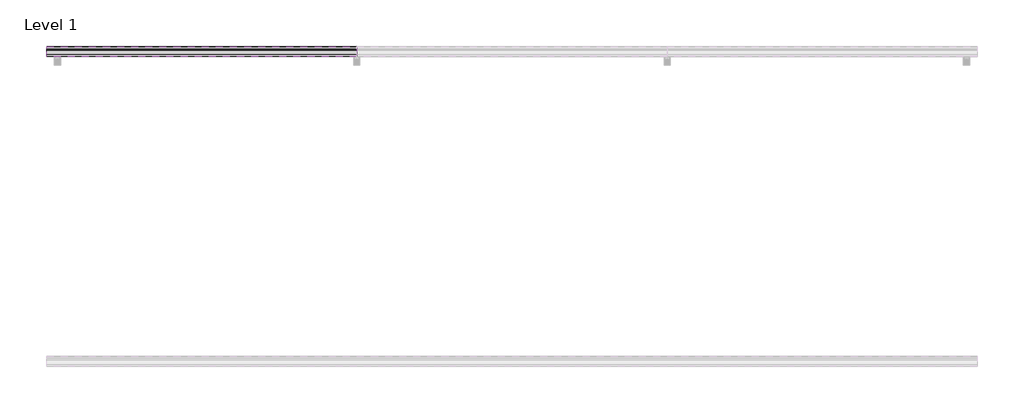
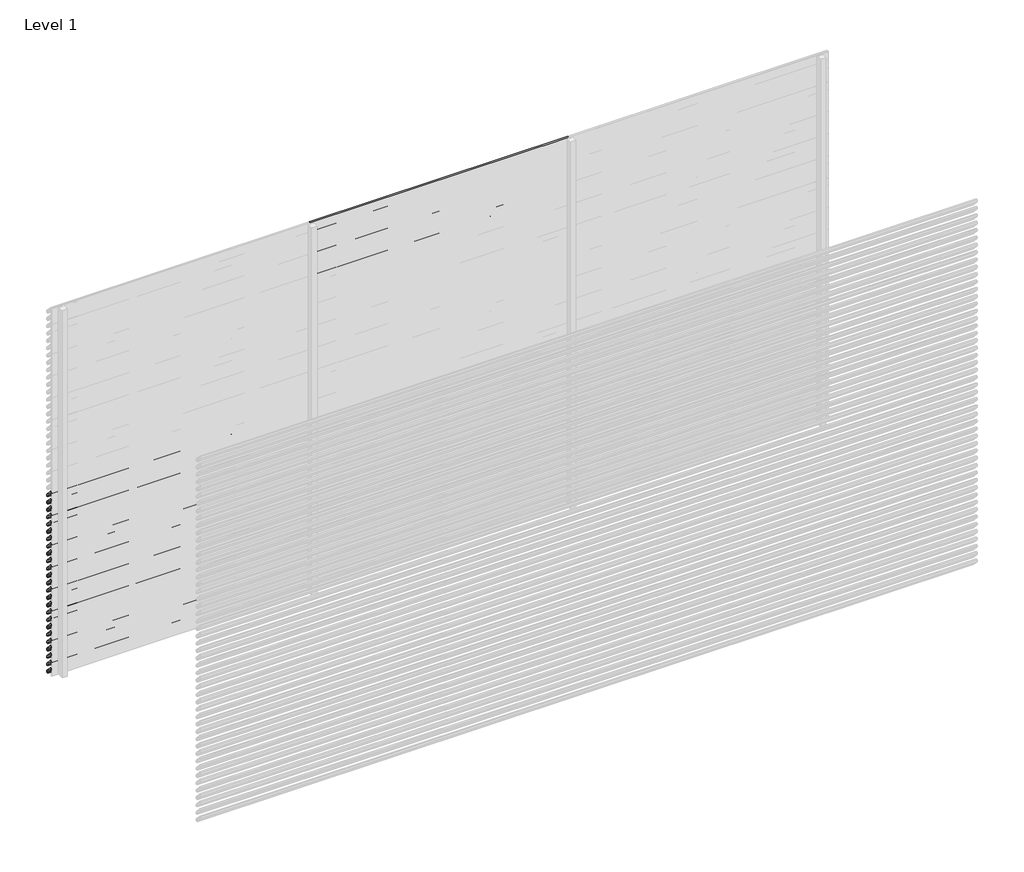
# One storey, part 92 of 153: 33 proxies.
"""IFC4 building model written with IfcOpenShell, lengths in millimetres."""

from ifc_helpers import new_model, si_unit, point, frame, frame_2d, origin, place, context, project, spatial, polyline, circle_curve, trimmed, segment, composite_curve, outline, extrude, element, save

model = new_model("IFC4")

# Units and contexts
model_context = context("Model", 3, world=origin())
ifc_project = project(units=[si_unit("LENGTHUNIT", "METRE", prefix="MILLI")], contexts=[model_context])

# Site, building, storey
site = spatial("IfcSite", under=ifc_project)
building = spatial("IfcBuilding", under=site)
storey = spatial("IfcBuildingStorey", under=building, Name="Level 1", Elevation=0.0)

# Proxies
placement = place(None, origin())
element("IfcBuildingElementProxy", 1, Name="Wall Sweeps", at=placement, inside=storey, context=model_context, shape_type="SweptSolid", body=[
    extrude(outline(composite_curve([segment(polyline([(36485.0540136, 1500.0), (36499.874191, 1498.7034025), (36549.0540136, 1445.0102749), (36549.0540136, 1433.6108187)]), True, "CONTINUOUS"), segment(trimmed(circle_curve(frame_2d((36545.7883652, 1433.897153)), 3.2781774), [point((36549.0540136, 1433.6108187))], [point((36546.4639442, 1430.6893438))], False, "CARTESIAN"), True, "CONTINUOUS"), segment(polyline([(36546.4639442, 1430.6893438), (36534.1895723, 1431.6282758), (36485.0540136, 1485.2730773), (36485.0540136, 1500.0)]), True, "CONTINUOUS")], self_intersect=False), holes=[composite_curve([segment(polyline([(36499.1621773, 1497.2599659), (36486.5540136, 1498.3630372), (36486.5540136, 1485.856213), (36534.8952036, 1433.0786805), (36546.3312542, 1432.2038762)]), True, "CONTINUOUS"), segment(trimmed(circle_curve(frame_2d((36545.7883652, 1433.897153)), 1.7781774), [point((36546.3312542, 1432.2038762))], [point((36547.5540136, 1433.6864389))], True, "CARTESIAN"), True, "CONTINUOUS"), segment(polyline([(36547.5540136, 1433.6864389), (36547.5540136, 1444.4271392), (36499.1621773, 1497.2599659)]), True, "CONTINUOUS")], self_intersect=False)]), frame((44966.6208097, 0.0, 0.0), z_axis=(1.0, 0.0, 0.0), x_axis=(0.0, 1.0, 0.0)), (0.0, 0.0, 1.0), 2000.0000001),
])
element("IfcBuildingElementProxy", 2, Name="Wall Sweeps", at=placement, inside=storey, context=model_context, shape_type="SweptSolid", body=[
    extrude(outline(composite_curve([segment(polyline([(36485.0540136, 1440.0), (36499.874191, 1438.7034025), (36549.0540136, 1385.0102749), (36549.0540136, 1373.6108187)]), True, "CONTINUOUS"), segment(trimmed(circle_curve(frame_2d((36545.7883652, 1373.897153)), 3.2781774), [point((36549.0540136, 1373.6108187))], [point((36546.4639442, 1370.6893438))], False, "CARTESIAN"), True, "CONTINUOUS"), segment(polyline([(36546.4639442, 1370.6893438), (36534.1895723, 1371.6282758), (36485.0540136, 1425.2730773), (36485.0540136, 1440.0)]), True, "CONTINUOUS")], self_intersect=False), holes=[composite_curve([segment(polyline([(36499.1621773, 1437.2599659), (36486.5540136, 1438.3630372), (36486.5540136, 1425.856213), (36534.8952036, 1373.0786805), (36546.3312542, 1372.2038762)]), True, "CONTINUOUS"), segment(trimmed(circle_curve(frame_2d((36545.7883652, 1373.897153)), 1.7781774), [point((36546.3312542, 1372.2038762))], [point((36547.5540136, 1373.6864389))], True, "CARTESIAN"), True, "CONTINUOUS"), segment(polyline([(36547.5540136, 1373.6864389), (36547.5540136, 1384.4271392), (36499.1621773, 1437.2599659)]), True, "CONTINUOUS")], self_intersect=False)]), frame((44966.6208097, 0.0, 0.0), z_axis=(1.0, 0.0, 0.0), x_axis=(0.0, 1.0, 0.0)), (0.0, 0.0, 1.0), 2000.0000001),
])
element("IfcBuildingElementProxy", 3, Name="Wall Sweeps", at=placement, inside=storey, context=model_context, shape_type="SweptSolid", body=[
    extrude(outline(composite_curve([segment(polyline([(36485.0540136, 1380.0), (36499.874191, 1378.7034025), (36549.0540136, 1325.0102749), (36549.0540136, 1313.6108187)]), True, "CONTINUOUS"), segment(trimmed(circle_curve(frame_2d((36545.7883652, 1313.897153)), 3.2781774), [point((36549.0540136, 1313.6108187))], [point((36546.4639442, 1310.6893438))], False, "CARTESIAN"), True, "CONTINUOUS"), segment(polyline([(36546.4639442, 1310.6893438), (36534.1895723, 1311.6282758), (36485.0540136, 1365.2730773), (36485.0540136, 1380.0)]), True, "CONTINUOUS")], self_intersect=False), holes=[composite_curve([segment(polyline([(36499.1621773, 1377.2599659), (36486.5540136, 1378.3630372), (36486.5540136, 1365.856213), (36534.8952036, 1313.0786805), (36546.3312542, 1312.2038762)]), True, "CONTINUOUS"), segment(trimmed(circle_curve(frame_2d((36545.7883652, 1313.897153)), 1.7781774), [point((36546.3312542, 1312.2038762))], [point((36547.5540136, 1313.6864389))], True, "CARTESIAN"), True, "CONTINUOUS"), segment(polyline([(36547.5540136, 1313.6864389), (36547.5540136, 1324.4271392), (36499.1621773, 1377.2599659)]), True, "CONTINUOUS")], self_intersect=False)]), frame((44966.6208097, 0.0, 0.0), z_axis=(1.0, 0.0, 0.0), x_axis=(0.0, 1.0, 0.0)), (0.0, 0.0, 1.0), 2000.0000001),
])
element("IfcBuildingElementProxy", 4, Name="Wall Sweeps", at=placement, inside=storey, context=model_context, shape_type="SweptSolid", body=[
    extrude(outline(composite_curve([segment(polyline([(36485.0540136, 1320.0), (36499.874191, 1318.7034025), (36549.0540136, 1265.0102749), (36549.0540136, 1253.6108187)]), True, "CONTINUOUS"), segment(trimmed(circle_curve(frame_2d((36545.7883652, 1253.897153)), 3.2781774), [point((36549.0540136, 1253.6108187))], [point((36546.4639442, 1250.6893438))], False, "CARTESIAN"), True, "CONTINUOUS"), segment(polyline([(36546.4639442, 1250.6893438), (36534.1895723, 1251.6282758), (36485.0540136, 1305.2730773), (36485.0540136, 1320.0)]), True, "CONTINUOUS")], self_intersect=False), holes=[composite_curve([segment(polyline([(36499.1621773, 1317.2599659), (36486.5540136, 1318.3630372), (36486.5540136, 1305.856213), (36534.8952036, 1253.0786805), (36546.3312542, 1252.2038762)]), True, "CONTINUOUS"), segment(trimmed(circle_curve(frame_2d((36545.7883652, 1253.897153)), 1.7781774), [point((36546.3312542, 1252.2038762))], [point((36547.5540136, 1253.6864389))], True, "CARTESIAN"), True, "CONTINUOUS"), segment(polyline([(36547.5540136, 1253.6864389), (36547.5540136, 1264.4271392), (36499.1621773, 1317.2599659)]), True, "CONTINUOUS")], self_intersect=False)]), frame((44966.6208097, 0.0, 0.0), z_axis=(1.0, 0.0, 0.0), x_axis=(0.0, 1.0, 0.0)), (0.0, 0.0, 1.0), 2000.0000001),
])
element("IfcBuildingElementProxy", 5, Name="Wall Sweeps", at=placement, inside=storey, context=model_context, shape_type="SweptSolid", body=[
    extrude(outline(composite_curve([segment(polyline([(36485.0540136, 1260.0), (36499.874191, 1258.7034025), (36549.0540136, 1205.0102749), (36549.0540136, 1193.6108187)]), True, "CONTINUOUS"), segment(trimmed(circle_curve(frame_2d((36545.7883652, 1193.897153)), 3.2781774), [point((36549.0540136, 1193.6108187))], [point((36546.4639442, 1190.6893438))], False, "CARTESIAN"), True, "CONTINUOUS"), segment(polyline([(36546.4639442, 1190.6893438), (36534.1895723, 1191.6282758), (36485.0540136, 1245.2730773), (36485.0540136, 1260.0)]), True, "CONTINUOUS")], self_intersect=False), holes=[composite_curve([segment(polyline([(36499.1621773, 1257.2599659), (36486.5540136, 1258.3630372), (36486.5540136, 1245.856213), (36534.8952036, 1193.0786805), (36546.3312542, 1192.2038762)]), True, "CONTINUOUS"), segment(trimmed(circle_curve(frame_2d((36545.7883652, 1193.897153)), 1.7781774), [point((36546.3312542, 1192.2038762))], [point((36547.5540136, 1193.6864389))], True, "CARTESIAN"), True, "CONTINUOUS"), segment(polyline([(36547.5540136, 1193.6864389), (36547.5540136, 1204.4271392), (36499.1621773, 1257.2599659)]), True, "CONTINUOUS")], self_intersect=False)]), frame((44966.6208097, 0.0, 0.0), z_axis=(1.0, 0.0, 0.0), x_axis=(0.0, 1.0, 0.0)), (0.0, 0.0, 1.0), 2000.0000001),
])
element("IfcBuildingElementProxy", 6, Name="Wall Sweeps", at=placement, inside=storey, context=model_context, shape_type="SweptSolid", body=[
    extrude(outline(composite_curve([segment(polyline([(36485.0540136, 1200.0), (36499.874191, 1198.7034025), (36549.0540136, 1145.0102749), (36549.0540136, 1133.6108187)]), True, "CONTINUOUS"), segment(trimmed(circle_curve(frame_2d((36545.7883652, 1133.897153)), 3.2781774), [point((36549.0540136, 1133.6108187))], [point((36546.4639442, 1130.6893438))], False, "CARTESIAN"), True, "CONTINUOUS"), segment(polyline([(36546.4639442, 1130.6893438), (36534.1895723, 1131.6282758), (36485.0540136, 1185.2730773), (36485.0540136, 1200.0)]), True, "CONTINUOUS")], self_intersect=False), holes=[composite_curve([segment(polyline([(36499.1621773, 1197.2599659), (36486.5540136, 1198.3630372), (36486.5540136, 1185.856213), (36534.8952036, 1133.0786805), (36546.3312542, 1132.2038762)]), True, "CONTINUOUS"), segment(trimmed(circle_curve(frame_2d((36545.7883652, 1133.897153)), 1.7781774), [point((36546.3312542, 1132.2038762))], [point((36547.5540136, 1133.6864389))], True, "CARTESIAN"), True, "CONTINUOUS"), segment(polyline([(36547.5540136, 1133.6864389), (36547.5540136, 1144.4271392), (36499.1621773, 1197.2599659)]), True, "CONTINUOUS")], self_intersect=False)]), frame((44966.6208097, 0.0, 0.0), z_axis=(1.0, 0.0, 0.0), x_axis=(0.0, 1.0, 0.0)), (0.0, 0.0, 1.0), 2000.0000001),
])
element("IfcBuildingElementProxy", 7, Name="Wall Sweeps", at=placement, inside=storey, context=model_context, shape_type="SweptSolid", body=[
    extrude(outline(composite_curve([segment(polyline([(36485.0540136, 1140.0), (36499.874191, 1138.7034025), (36549.0540136, 1085.0102749), (36549.0540136, 1073.6108187)]), True, "CONTINUOUS"), segment(trimmed(circle_curve(frame_2d((36545.7883652, 1073.897153)), 3.2781774), [point((36549.0540136, 1073.6108187))], [point((36546.4639442, 1070.6893438))], False, "CARTESIAN"), True, "CONTINUOUS"), segment(polyline([(36546.4639442, 1070.6893438), (36534.1895723, 1071.6282758), (36485.0540136, 1125.2730773), (36485.0540136, 1140.0)]), True, "CONTINUOUS")], self_intersect=False), holes=[composite_curve([segment(polyline([(36499.1621773, 1137.2599659), (36486.5540136, 1138.3630372), (36486.5540136, 1125.856213), (36534.8952036, 1073.0786805), (36546.3312542, 1072.2038762)]), True, "CONTINUOUS"), segment(trimmed(circle_curve(frame_2d((36545.7883652, 1073.897153)), 1.7781774), [point((36546.3312542, 1072.2038762))], [point((36547.5540136, 1073.6864389))], True, "CARTESIAN"), True, "CONTINUOUS"), segment(polyline([(36547.5540136, 1073.6864389), (36547.5540136, 1084.4271392), (36499.1621773, 1137.2599659)]), True, "CONTINUOUS")], self_intersect=False)]), frame((44966.6208097, 0.0, 0.0), z_axis=(1.0, 0.0, 0.0), x_axis=(0.0, 1.0, 0.0)), (0.0, 0.0, 1.0), 2000.0000001),
])
element("IfcBuildingElementProxy", 8, Name="Wall Sweeps", at=placement, inside=storey, context=model_context, shape_type="SweptSolid", body=[
    extrude(outline(composite_curve([segment(polyline([(36485.0540136, 1080.0), (36499.874191, 1078.7034025), (36549.0540136, 1025.0102749), (36549.0540136, 1013.6108187)]), True, "CONTINUOUS"), segment(trimmed(circle_curve(frame_2d((36545.7883652, 1013.897153)), 3.2781774), [point((36549.0540136, 1013.6108187))], [point((36546.4639442, 1010.6893438))], False, "CARTESIAN"), True, "CONTINUOUS"), segment(polyline([(36546.4639442, 1010.6893438), (36534.1895723, 1011.6282758), (36485.0540136, 1065.2730773), (36485.0540136, 1080.0)]), True, "CONTINUOUS")], self_intersect=False), holes=[composite_curve([segment(polyline([(36499.1621773, 1077.2599659), (36486.5540136, 1078.3630372), (36486.5540136, 1065.856213), (36534.8952036, 1013.0786805), (36546.3312542, 1012.2038762)]), True, "CONTINUOUS"), segment(trimmed(circle_curve(frame_2d((36545.7883652, 1013.897153)), 1.7781774), [point((36546.3312542, 1012.2038762))], [point((36547.5540136, 1013.6864389))], True, "CARTESIAN"), True, "CONTINUOUS"), segment(polyline([(36547.5540136, 1013.6864389), (36547.5540136, 1024.4271392), (36499.1621773, 1077.2599659)]), True, "CONTINUOUS")], self_intersect=False)]), frame((44966.6208097, 0.0, 0.0), z_axis=(1.0, 0.0, 0.0), x_axis=(0.0, 1.0, 0.0)), (0.0, 0.0, 1.0), 2000.0000001),
])
element("IfcBuildingElementProxy", 9, Name="Wall Sweeps", at=placement, inside=storey, context=model_context, shape_type="SweptSolid", body=[
    extrude(outline(composite_curve([segment(polyline([(36485.0540136, 1020.0), (36499.874191, 1018.7034025), (36549.0540136, 965.0102749), (36549.0540136, 953.6108187)]), True, "CONTINUOUS"), segment(trimmed(circle_curve(frame_2d((36545.7883652, 953.897153)), 3.2781774), [point((36549.0540136, 953.6108187))], [point((36546.4639442, 950.6893438))], False, "CARTESIAN"), True, "CONTINUOUS"), segment(polyline([(36546.4639442, 950.6893438), (36534.1895723, 951.6282758), (36485.0540136, 1005.2730773), (36485.0540136, 1020.0)]), True, "CONTINUOUS")], self_intersect=False), holes=[composite_curve([segment(polyline([(36499.1621773, 1017.2599659), (36486.5540136, 1018.3630372), (36486.5540136, 1005.856213), (36534.8952036, 953.0786805), (36546.3312542, 952.2038762)]), True, "CONTINUOUS"), segment(trimmed(circle_curve(frame_2d((36545.7883652, 953.897153)), 1.7781774), [point((36546.3312542, 952.2038762))], [point((36547.5540136, 953.6864389))], True, "CARTESIAN"), True, "CONTINUOUS"), segment(polyline([(36547.5540136, 953.6864389), (36547.5540136, 964.4271392), (36499.1621773, 1017.2599659)]), True, "CONTINUOUS")], self_intersect=False)]), frame((44966.6208097, 0.0, 0.0), z_axis=(1.0, 0.0, 0.0), x_axis=(0.0, 1.0, 0.0)), (0.0, 0.0, 1.0), 2000.0000001),
])
element("IfcBuildingElementProxy", 10, Name="Wall Sweeps", at=placement, inside=storey, context=model_context, shape_type="SweptSolid", body=[
    extrude(outline(composite_curve([segment(polyline([(36485.0540136, 960.0), (36499.874191, 958.7034025), (36549.0540136, 905.0102749), (36549.0540136, 893.6108187)]), True, "CONTINUOUS"), segment(trimmed(circle_curve(frame_2d((36545.7883652, 893.897153)), 3.2781774), [point((36549.0540136, 893.6108187))], [point((36546.4639442, 890.6893438))], False, "CARTESIAN"), True, "CONTINUOUS"), segment(polyline([(36546.4639442, 890.6893438), (36534.1895723, 891.6282758), (36485.0540136, 945.2730773), (36485.0540136, 960.0)]), True, "CONTINUOUS")], self_intersect=False), holes=[composite_curve([segment(polyline([(36499.1621773, 957.2599659), (36486.5540136, 958.3630372), (36486.5540136, 945.856213), (36534.8952036, 893.0786805), (36546.3312542, 892.2038762)]), True, "CONTINUOUS"), segment(trimmed(circle_curve(frame_2d((36545.7883652, 893.897153)), 1.7781774), [point((36546.3312542, 892.2038762))], [point((36547.5540136, 893.6864389))], True, "CARTESIAN"), True, "CONTINUOUS"), segment(polyline([(36547.5540136, 893.6864389), (36547.5540136, 904.4271392), (36499.1621773, 957.2599659)]), True, "CONTINUOUS")], self_intersect=False)]), frame((44966.6208097, 0.0, 0.0), z_axis=(1.0, 0.0, 0.0), x_axis=(0.0, 1.0, 0.0)), (0.0, 0.0, 1.0), 2000.0000001),
])
element("IfcBuildingElementProxy", 11, Name="Wall Sweeps", at=placement, inside=storey, context=model_context, shape_type="SweptSolid", body=[
    extrude(outline(composite_curve([segment(polyline([(36485.0540136, 900.0), (36499.874191, 898.7034025), (36549.0540136, 845.0102749), (36549.0540136, 833.6108187)]), True, "CONTINUOUS"), segment(trimmed(circle_curve(frame_2d((36545.7883652, 833.897153)), 3.2781774), [point((36549.0540136, 833.6108187))], [point((36546.4639442, 830.6893438))], False, "CARTESIAN"), True, "CONTINUOUS"), segment(polyline([(36546.4639442, 830.6893438), (36534.1895723, 831.6282758), (36485.0540136, 885.2730773), (36485.0540136, 900.0)]), True, "CONTINUOUS")], self_intersect=False), holes=[composite_curve([segment(polyline([(36499.1621773, 897.2599659), (36486.5540136, 898.3630372), (36486.5540136, 885.856213), (36534.8952036, 833.0786805), (36546.3312542, 832.2038762)]), True, "CONTINUOUS"), segment(trimmed(circle_curve(frame_2d((36545.7883652, 833.897153)), 1.7781774), [point((36546.3312542, 832.2038762))], [point((36547.5540136, 833.6864389))], True, "CARTESIAN"), True, "CONTINUOUS"), segment(polyline([(36547.5540136, 833.6864389), (36547.5540136, 844.4271392), (36499.1621773, 897.2599659)]), True, "CONTINUOUS")], self_intersect=False)]), frame((44966.6208097, 0.0, 0.0), z_axis=(1.0, 0.0, 0.0), x_axis=(0.0, 1.0, 0.0)), (0.0, 0.0, 1.0), 2000.0000001),
])
element("IfcBuildingElementProxy", 12, Name="Wall Sweeps", at=placement, inside=storey, context=model_context, shape_type="SweptSolid", body=[
    extrude(outline(composite_curve([segment(polyline([(36485.0540136, 840.0), (36499.874191, 838.7034025), (36549.0540136, 785.0102749), (36549.0540136, 773.6108187)]), True, "CONTINUOUS"), segment(trimmed(circle_curve(frame_2d((36545.7883652, 773.897153)), 3.2781774), [point((36549.0540136, 773.6108187))], [point((36546.4639442, 770.6893438))], False, "CARTESIAN"), True, "CONTINUOUS"), segment(polyline([(36546.4639442, 770.6893438), (36534.1895723, 771.6282758), (36485.0540136, 825.2730773), (36485.0540136, 840.0)]), True, "CONTINUOUS")], self_intersect=False), holes=[composite_curve([segment(polyline([(36499.1621773, 837.2599659), (36486.5540136, 838.3630372), (36486.5540136, 825.856213), (36534.8952036, 773.0786805), (36546.3312542, 772.2038762)]), True, "CONTINUOUS"), segment(trimmed(circle_curve(frame_2d((36545.7883652, 773.897153)), 1.7781774), [point((36546.3312542, 772.2038762))], [point((36547.5540136, 773.6864389))], True, "CARTESIAN"), True, "CONTINUOUS"), segment(polyline([(36547.5540136, 773.6864389), (36547.5540136, 784.4271392), (36499.1621773, 837.2599659)]), True, "CONTINUOUS")], self_intersect=False)]), frame((44966.6208097, 0.0, 0.0), z_axis=(1.0, 0.0, 0.0), x_axis=(0.0, 1.0, 0.0)), (0.0, 0.0, 1.0), 2000.0000001),
])
element("IfcBuildingElementProxy", 13, Name="Wall Sweeps", at=placement, inside=storey, context=model_context, shape_type="SweptSolid", body=[
    extrude(outline(composite_curve([segment(polyline([(36485.0540136, 780.0), (36499.874191, 778.7034025), (36549.0540136, 725.0102749), (36549.0540136, 713.6108187)]), True, "CONTINUOUS"), segment(trimmed(circle_curve(frame_2d((36545.7883652, 713.897153)), 3.2781774), [point((36549.0540136, 713.6108187))], [point((36546.4639442, 710.6893438))], False, "CARTESIAN"), True, "CONTINUOUS"), segment(polyline([(36546.4639442, 710.6893438), (36534.1895723, 711.6282758), (36485.0540136, 765.2730773), (36485.0540136, 780.0)]), True, "CONTINUOUS")], self_intersect=False), holes=[composite_curve([segment(polyline([(36499.1621773, 777.2599659), (36486.5540136, 778.3630372), (36486.5540136, 765.856213), (36534.8952036, 713.0786805), (36546.3312542, 712.2038762)]), True, "CONTINUOUS"), segment(trimmed(circle_curve(frame_2d((36545.7883652, 713.897153)), 1.7781774), [point((36546.3312542, 712.2038762))], [point((36547.5540136, 713.6864389))], True, "CARTESIAN"), True, "CONTINUOUS"), segment(polyline([(36547.5540136, 713.6864389), (36547.5540136, 724.4271392), (36499.1621773, 777.2599659)]), True, "CONTINUOUS")], self_intersect=False)]), frame((44966.6208097, 0.0, 0.0), z_axis=(1.0, 0.0, 0.0), x_axis=(0.0, 1.0, 0.0)), (0.0, 0.0, 1.0), 2000.0000001),
])
element("IfcBuildingElementProxy", 14, Name="Wall Sweeps", at=placement, inside=storey, context=model_context, shape_type="SweptSolid", body=[
    extrude(outline(composite_curve([segment(polyline([(36485.0540136, 720.0), (36499.874191, 718.7034025), (36549.0540136, 665.0102749), (36549.0540136, 653.6108187)]), True, "CONTINUOUS"), segment(trimmed(circle_curve(frame_2d((36545.7883652, 653.897153)), 3.2781774), [point((36549.0540136, 653.6108187))], [point((36546.4639442, 650.6893438))], False, "CARTESIAN"), True, "CONTINUOUS"), segment(polyline([(36546.4639442, 650.6893438), (36534.1895723, 651.6282758), (36485.0540136, 705.2730773), (36485.0540136, 720.0)]), True, "CONTINUOUS")], self_intersect=False), holes=[composite_curve([segment(polyline([(36499.1621773, 717.2599659), (36486.5540136, 718.3630372), (36486.5540136, 705.856213), (36534.8952036, 653.0786805), (36546.3312542, 652.2038762)]), True, "CONTINUOUS"), segment(trimmed(circle_curve(frame_2d((36545.7883652, 653.897153)), 1.7781774), [point((36546.3312542, 652.2038762))], [point((36547.5540136, 653.6864389))], True, "CARTESIAN"), True, "CONTINUOUS"), segment(polyline([(36547.5540136, 653.6864389), (36547.5540136, 664.4271392), (36499.1621773, 717.2599659)]), True, "CONTINUOUS")], self_intersect=False)]), frame((44966.6208097, 0.0, 0.0), z_axis=(1.0, 0.0, 0.0), x_axis=(0.0, 1.0, 0.0)), (0.0, 0.0, 1.0), 2000.0000001),
])
element("IfcBuildingElementProxy", 15, Name="Wall Sweeps", at=placement, inside=storey, context=model_context, shape_type="SweptSolid", body=[
    extrude(outline(composite_curve([segment(polyline([(36485.0540136, 660.0), (36499.874191, 658.7034025), (36549.0540136, 605.0102749), (36549.0540136, 593.6108187)]), True, "CONTINUOUS"), segment(trimmed(circle_curve(frame_2d((36545.7883652, 593.897153)), 3.2781774), [point((36549.0540136, 593.6108187))], [point((36546.4639442, 590.6893438))], False, "CARTESIAN"), True, "CONTINUOUS"), segment(polyline([(36546.4639442, 590.6893438), (36534.1895723, 591.6282758), (36485.0540136, 645.2730773), (36485.0540136, 660.0)]), True, "CONTINUOUS")], self_intersect=False), holes=[composite_curve([segment(polyline([(36499.1621773, 657.2599659), (36486.5540136, 658.3630372), (36486.5540136, 645.856213), (36534.8952036, 593.0786805), (36546.3312542, 592.2038762)]), True, "CONTINUOUS"), segment(trimmed(circle_curve(frame_2d((36545.7883652, 593.897153)), 1.7781774), [point((36546.3312542, 592.2038762))], [point((36547.5540136, 593.6864389))], True, "CARTESIAN"), True, "CONTINUOUS"), segment(polyline([(36547.5540136, 593.6864389), (36547.5540136, 604.4271392), (36499.1621773, 657.2599659)]), True, "CONTINUOUS")], self_intersect=False)]), frame((44966.6208097, 0.0, 0.0), z_axis=(1.0, 0.0, 0.0), x_axis=(0.0, 1.0, 0.0)), (0.0, 0.0, 1.0), 2000.0000001),
])
element("IfcBuildingElementProxy", 16, Name="Wall Sweeps", at=placement, inside=storey, context=model_context, shape_type="SweptSolid", body=[
    extrude(outline(composite_curve([segment(polyline([(36485.0540136, 600.0), (36499.874191, 598.7034025), (36549.0540136, 545.0102749), (36549.0540136, 533.6108187)]), True, "CONTINUOUS"), segment(trimmed(circle_curve(frame_2d((36545.7883652, 533.897153)), 3.2781774), [point((36549.0540136, 533.6108187))], [point((36546.4639442, 530.6893438))], False, "CARTESIAN"), True, "CONTINUOUS"), segment(polyline([(36546.4639442, 530.6893438), (36534.1895723, 531.6282758), (36485.0540136, 585.2730773), (36485.0540136, 600.0)]), True, "CONTINUOUS")], self_intersect=False), holes=[composite_curve([segment(polyline([(36499.1621773, 597.2599659), (36486.5540136, 598.3630372), (36486.5540136, 585.856213), (36534.8952036, 533.0786805), (36546.3312542, 532.2038762)]), True, "CONTINUOUS"), segment(trimmed(circle_curve(frame_2d((36545.7883652, 533.897153)), 1.7781774), [point((36546.3312542, 532.2038762))], [point((36547.5540136, 533.6864389))], True, "CARTESIAN"), True, "CONTINUOUS"), segment(polyline([(36547.5540136, 533.6864389), (36547.5540136, 544.4271392), (36499.1621773, 597.2599659)]), True, "CONTINUOUS")], self_intersect=False)]), frame((44966.6208097, 0.0, 0.0), z_axis=(1.0, 0.0, 0.0), x_axis=(0.0, 1.0, 0.0)), (0.0, 0.0, 1.0), 2000.0000001),
])
element("IfcBuildingElementProxy", 17, Name="Wall Sweeps", at=placement, inside=storey, context=model_context, shape_type="SweptSolid", body=[
    extrude(outline(composite_curve([segment(polyline([(36485.0540136, 540.0), (36499.874191, 538.7034025), (36549.0540136, 485.0102749), (36549.0540136, 473.6108187)]), True, "CONTINUOUS"), segment(trimmed(circle_curve(frame_2d((36545.7883652, 473.897153)), 3.2781774), [point((36549.0540136, 473.6108187))], [point((36546.4639442, 470.6893438))], False, "CARTESIAN"), True, "CONTINUOUS"), segment(polyline([(36546.4639442, 470.6893438), (36534.1895723, 471.6282758), (36485.0540136, 525.2730773), (36485.0540136, 540.0)]), True, "CONTINUOUS")], self_intersect=False), holes=[composite_curve([segment(polyline([(36499.1621773, 537.2599659), (36486.5540136, 538.3630372), (36486.5540136, 525.856213), (36534.8952036, 473.0786805), (36546.3312542, 472.2038762)]), True, "CONTINUOUS"), segment(trimmed(circle_curve(frame_2d((36545.7883652, 473.897153)), 1.7781774), [point((36546.3312542, 472.2038762))], [point((36547.5540136, 473.6864389))], True, "CARTESIAN"), True, "CONTINUOUS"), segment(polyline([(36547.5540136, 473.6864389), (36547.5540136, 484.4271392), (36499.1621773, 537.2599659)]), True, "CONTINUOUS")], self_intersect=False)]), frame((44966.6208097, 0.0, 0.0), z_axis=(1.0, 0.0, 0.0), x_axis=(0.0, 1.0, 0.0)), (0.0, 0.0, 1.0), 2000.0000001),
])
element("IfcBuildingElementProxy", 18, Name="Wall Sweeps", at=placement, inside=storey, context=model_context, shape_type="SweptSolid", body=[
    extrude(outline(composite_curve([segment(polyline([(36485.0540136, 480.0), (36499.874191, 478.7034025), (36549.0540136, 425.0102749), (36549.0540136, 413.6108187)]), True, "CONTINUOUS"), segment(trimmed(circle_curve(frame_2d((36545.7883652, 413.897153)), 3.2781774), [point((36549.0540136, 413.6108187))], [point((36546.4639442, 410.6893438))], False, "CARTESIAN"), True, "CONTINUOUS"), segment(polyline([(36546.4639442, 410.6893438), (36534.1895723, 411.6282758), (36485.0540136, 465.2730773), (36485.0540136, 480.0)]), True, "CONTINUOUS")], self_intersect=False), holes=[composite_curve([segment(polyline([(36499.1621773, 477.2599659), (36486.5540136, 478.3630372), (36486.5540136, 465.856213), (36534.8952036, 413.0786805), (36546.3312542, 412.2038762)]), True, "CONTINUOUS"), segment(trimmed(circle_curve(frame_2d((36545.7883652, 413.897153)), 1.7781774), [point((36546.3312542, 412.2038762))], [point((36547.5540136, 413.6864389))], True, "CARTESIAN"), True, "CONTINUOUS"), segment(polyline([(36547.5540136, 413.6864389), (36547.5540136, 424.4271392), (36499.1621773, 477.2599659)]), True, "CONTINUOUS")], self_intersect=False)]), frame((44966.6208097, 0.0, 0.0), z_axis=(1.0, 0.0, 0.0), x_axis=(0.0, 1.0, 0.0)), (0.0, 0.0, 1.0), 2000.0000001),
])
element("IfcBuildingElementProxy", 19, Name="Wall Sweeps", at=placement, inside=storey, context=model_context, shape_type="SweptSolid", body=[
    extrude(outline(composite_curve([segment(polyline([(36485.0540136, 420.0), (36499.874191, 418.7034025), (36549.0540136, 365.0102749), (36549.0540136, 353.6108187)]), True, "CONTINUOUS"), segment(trimmed(circle_curve(frame_2d((36545.7883652, 353.897153)), 3.2781774), [point((36549.0540136, 353.6108187))], [point((36546.4639442, 350.6893438))], False, "CARTESIAN"), True, "CONTINUOUS"), segment(polyline([(36546.4639442, 350.6893438), (36534.1895723, 351.6282758), (36485.0540136, 405.2730773), (36485.0540136, 420.0)]), True, "CONTINUOUS")], self_intersect=False), holes=[composite_curve([segment(polyline([(36499.1621773, 417.2599659), (36486.5540136, 418.3630372), (36486.5540136, 405.856213), (36534.8952036, 353.0786805), (36546.3312542, 352.2038762)]), True, "CONTINUOUS"), segment(trimmed(circle_curve(frame_2d((36545.7883652, 353.897153)), 1.7781774), [point((36546.3312542, 352.2038762))], [point((36547.5540136, 353.6864389))], True, "CARTESIAN"), True, "CONTINUOUS"), segment(polyline([(36547.5540136, 353.6864389), (36547.5540136, 364.4271392), (36499.1621773, 417.2599659)]), True, "CONTINUOUS")], self_intersect=False)]), frame((44966.6208097, 0.0, 0.0), z_axis=(1.0, 0.0, 0.0), x_axis=(0.0, 1.0, 0.0)), (0.0, 0.0, 1.0), 2000.0000001),
])
element("IfcBuildingElementProxy", 20, Name="Wall Sweeps", at=placement, inside=storey, context=model_context, shape_type="SweptSolid", body=[
    extrude(outline(composite_curve([segment(polyline([(36485.0540136, 360.0), (36499.874191, 358.7034025), (36549.0540136, 305.0102749), (36549.0540136, 293.6108187)]), True, "CONTINUOUS"), segment(trimmed(circle_curve(frame_2d((36545.7883652, 293.897153)), 3.2781774), [point((36549.0540136, 293.6108187))], [point((36546.4639442, 290.6893438))], False, "CARTESIAN"), True, "CONTINUOUS"), segment(polyline([(36546.4639442, 290.6893438), (36534.1895723, 291.6282758), (36485.0540136, 345.2730773), (36485.0540136, 360.0)]), True, "CONTINUOUS")], self_intersect=False), holes=[composite_curve([segment(polyline([(36499.1621773, 357.2599659), (36486.5540136, 358.3630372), (36486.5540136, 345.856213), (36534.8952036, 293.0786805), (36546.3312542, 292.2038762)]), True, "CONTINUOUS"), segment(trimmed(circle_curve(frame_2d((36545.7883652, 293.897153)), 1.7781774), [point((36546.3312542, 292.2038762))], [point((36547.5540136, 293.6864389))], True, "CARTESIAN"), True, "CONTINUOUS"), segment(polyline([(36547.5540136, 293.6864389), (36547.5540136, 304.4271392), (36499.1621773, 357.2599659)]), True, "CONTINUOUS")], self_intersect=False)]), frame((44966.6208097, 0.0, 0.0), z_axis=(1.0, 0.0, 0.0), x_axis=(0.0, 1.0, 0.0)), (0.0, 0.0, 1.0), 2000.0000001),
])
element("IfcBuildingElementProxy", 21, Name="Wall Sweeps", at=placement, inside=storey, context=model_context, shape_type="SweptSolid", body=[
    extrude(outline(composite_curve([segment(polyline([(36485.0540136, 300.0), (36499.874191, 298.7034025), (36549.0540136, 245.0102749), (36549.0540136, 233.6108187)]), True, "CONTINUOUS"), segment(trimmed(circle_curve(frame_2d((36545.7883652, 233.897153)), 3.2781774), [point((36549.0540136, 233.6108187))], [point((36546.4639442, 230.6893438))], False, "CARTESIAN"), True, "CONTINUOUS"), segment(polyline([(36546.4639442, 230.6893438), (36534.1895723, 231.6282758), (36485.0540136, 285.2730773), (36485.0540136, 300.0)]), True, "CONTINUOUS")], self_intersect=False), holes=[composite_curve([segment(polyline([(36499.1621773, 297.2599659), (36486.5540136, 298.3630372), (36486.5540136, 285.856213), (36534.8952036, 233.0786805), (36546.3312542, 232.2038762)]), True, "CONTINUOUS"), segment(trimmed(circle_curve(frame_2d((36545.7883652, 233.897153)), 1.7781774), [point((36546.3312542, 232.2038762))], [point((36547.5540136, 233.6864389))], True, "CARTESIAN"), True, "CONTINUOUS"), segment(polyline([(36547.5540136, 233.6864389), (36547.5540136, 244.4271392), (36499.1621773, 297.2599659)]), True, "CONTINUOUS")], self_intersect=False)]), frame((44966.6208097, 0.0, 0.0), z_axis=(1.0, 0.0, 0.0), x_axis=(0.0, 1.0, 0.0)), (0.0, 0.0, 1.0), 2000.0000001),
])
element("IfcBuildingElementProxy", 22, Name="Wall Sweeps", at=placement, inside=storey, context=model_context, shape_type="SweptSolid", body=[
    extrude(outline(composite_curve([segment(polyline([(36485.0540136, 240.0), (36499.874191, 238.7034025), (36549.0540136, 185.0102749), (36549.0540136, 173.6108187)]), True, "CONTINUOUS"), segment(trimmed(circle_curve(frame_2d((36545.7883652, 173.897153)), 3.2781774), [point((36549.0540136, 173.6108187))], [point((36546.4639442, 170.6893438))], False, "CARTESIAN"), True, "CONTINUOUS"), segment(polyline([(36546.4639442, 170.6893438), (36534.1895723, 171.6282758), (36485.0540136, 225.2730773), (36485.0540136, 240.0)]), True, "CONTINUOUS")], self_intersect=False), holes=[composite_curve([segment(polyline([(36499.1621773, 237.2599659), (36486.5540136, 238.3630372), (36486.5540136, 225.856213), (36534.8952036, 173.0786805), (36546.3312542, 172.2038762)]), True, "CONTINUOUS"), segment(trimmed(circle_curve(frame_2d((36545.7883652, 173.897153)), 1.7781774), [point((36546.3312542, 172.2038762))], [point((36547.5540136, 173.6864389))], True, "CARTESIAN"), True, "CONTINUOUS"), segment(polyline([(36547.5540136, 173.6864389), (36547.5540136, 184.4271392), (36499.1621773, 237.2599659)]), True, "CONTINUOUS")], self_intersect=False)]), frame((44966.6208097, 0.0, 0.0), z_axis=(1.0, 0.0, 0.0), x_axis=(0.0, 1.0, 0.0)), (0.0, 0.0, 1.0), 2000.0000001),
])
element("IfcBuildingElementProxy", 23, Name="Wall Sweeps", at=placement, inside=storey, context=model_context, shape_type="SweptSolid", body=[
    extrude(outline(composite_curve([segment(polyline([(36485.0540136, 180.0), (36499.874191, 178.7034025), (36549.0540136, 125.0102749), (36549.0540136, 113.6108187)]), True, "CONTINUOUS"), segment(trimmed(circle_curve(frame_2d((36545.7883652, 113.897153)), 3.2781774), [point((36549.0540136, 113.6108187))], [point((36546.4639442, 110.6893438))], False, "CARTESIAN"), True, "CONTINUOUS"), segment(polyline([(36546.4639442, 110.6893438), (36534.1895723, 111.6282758), (36485.0540136, 165.2730773), (36485.0540136, 180.0)]), True, "CONTINUOUS")], self_intersect=False), holes=[composite_curve([segment(polyline([(36499.1621773, 177.2599659), (36486.5540136, 178.3630372), (36486.5540136, 165.856213), (36534.8952036, 113.0786805), (36546.3312542, 112.2038762)]), True, "CONTINUOUS"), segment(trimmed(circle_curve(frame_2d((36545.7883652, 113.897153)), 1.7781774), [point((36546.3312542, 112.2038762))], [point((36547.5540136, 113.6864389))], True, "CARTESIAN"), True, "CONTINUOUS"), segment(polyline([(36547.5540136, 113.6864389), (36547.5540136, 124.4271392), (36499.1621773, 177.2599659)]), True, "CONTINUOUS")], self_intersect=False)]), frame((44966.6208097, 0.0, 0.0), z_axis=(1.0, 0.0, 0.0), x_axis=(0.0, 1.0, 0.0)), (0.0, 0.0, 1.0), 2000.0000001),
])
element("IfcBuildingElementProxy", 24, Name="Wall Sweeps", at=placement, inside=storey, context=model_context, shape_type="SweptSolid", body=[
    extrude(outline(composite_curve([segment(polyline([(36485.0540136, 120.0), (36499.874191, 118.7034025), (36549.0540136, 65.0102749), (36549.0540136, 53.6108187)]), True, "CONTINUOUS"), segment(trimmed(circle_curve(frame_2d((36545.7883652, 53.897153)), 3.2781774), [point((36549.0540136, 53.6108187))], [point((36546.4639442, 50.6893438))], False, "CARTESIAN"), True, "CONTINUOUS"), segment(polyline([(36546.4639442, 50.6893438), (36534.1895723, 51.6282758), (36485.0540136, 105.2730773), (36485.0540136, 120.0)]), True, "CONTINUOUS")], self_intersect=False), holes=[composite_curve([segment(polyline([(36499.1621773, 117.2599659), (36486.5540136, 118.3630372), (36486.5540136, 105.856213), (36534.8952036, 53.0786805), (36546.3312542, 52.2038762)]), True, "CONTINUOUS"), segment(trimmed(circle_curve(frame_2d((36545.7883652, 53.897153)), 1.7781774), [point((36546.3312542, 52.2038762))], [point((36547.5540136, 53.6864389))], True, "CARTESIAN"), True, "CONTINUOUS"), segment(polyline([(36547.5540136, 53.6864389), (36547.5540136, 64.4271392), (36499.1621773, 117.2599659)]), True, "CONTINUOUS")], self_intersect=False)]), frame((44966.6208097, 0.0, 0.0), z_axis=(1.0, 0.0, 0.0), x_axis=(0.0, 1.0, 0.0)), (0.0, 0.0, 1.0), 2000.0000001),
])
element("IfcBuildingElementProxy", 25, Name="Wall Sweeps", at=placement, inside=storey, context=model_context, shape_type="SweptSolid", body=[
    extrude(outline(composite_curve([segment(polyline([(36485.0540136, 60.0), (36499.874191, 58.7034025), (36549.0540136, 5.0102749), (36549.0540136, -6.3891813)]), True, "CONTINUOUS"), segment(trimmed(circle_curve(frame_2d((36545.7883652, -6.102847)), 3.2781774), [point((36549.0540136, -6.3891813))], [point((36546.4639442, -9.3106562))], False, "CARTESIAN"), True, "CONTINUOUS"), segment(polyline([(36546.4639442, -9.3106562), (36534.1895723, -8.3717242), (36485.0540136, 45.2730773), (36485.0540136, 60.0)]), True, "CONTINUOUS")], self_intersect=False), holes=[composite_curve([segment(polyline([(36499.1621773, 57.2599659), (36486.5540136, 58.3630372), (36486.5540136, 45.856213), (36534.8952036, -6.9213195), (36546.3312542, -7.7961238)]), True, "CONTINUOUS"), segment(trimmed(circle_curve(frame_2d((36545.7883652, -6.102847)), 1.7781774), [point((36546.3312542, -7.7961238))], [point((36547.5540136, -6.3135611))], True, "CARTESIAN"), True, "CONTINUOUS"), segment(polyline([(36547.5540136, -6.3135611), (36547.5540136, 4.4271392), (36499.1621773, 57.2599659)]), True, "CONTINUOUS")], self_intersect=False)]), frame((44966.6208097, 0.0, 0.0), z_axis=(1.0, 0.0, 0.0), x_axis=(0.0, 1.0, 0.0)), (0.0, 0.0, 1.0), 2000.0000001),
])
element("IfcBuildingElementProxy", 26, Name="Wall Sweeps", at=placement, inside=storey, context=model_context, shape_type="SweptSolid", body=[
    extrude(outline(composite_curve([segment(polyline([(36485.0540136, 3000.0), (36499.874191, 2998.7034025), (36549.0540136, 2945.0102749), (36549.0540136, 2933.6108187)]), True, "CONTINUOUS"), segment(trimmed(circle_curve(frame_2d((36545.7883652, 2933.897153)), 3.2781774), [point((36549.0540136, 2933.6108187))], [point((36546.4639442, 2930.6893438))], False, "CARTESIAN"), True, "CONTINUOUS"), segment(polyline([(36546.4639442, 2930.6893438), (36534.1895723, 2931.6282758), (36485.0540136, 2985.2730773), (36485.0540136, 3000.0)]), True, "CONTINUOUS")], self_intersect=False), holes=[composite_curve([segment(polyline([(36499.1621773, 2997.2599659), (36486.5540136, 2998.3630372), (36486.5540136, 2985.856213), (36534.8952036, 2933.0786805), (36546.3312542, 2932.2038762)]), True, "CONTINUOUS"), segment(trimmed(circle_curve(frame_2d((36545.7883652, 2933.897153)), 1.7781774), [point((36546.3312542, 2932.2038762))], [point((36547.5540136, 2933.6864389))], True, "CARTESIAN"), True, "CONTINUOUS"), segment(polyline([(36547.5540136, 2933.6864389), (36547.5540136, 2944.4271392), (36499.1621773, 2997.2599659)]), True, "CONTINUOUS")], self_intersect=False)]), frame((46966.6208098, 0.0, 0.0), z_axis=(1.0, 0.0, 0.0), x_axis=(0.0, 1.0, 0.0)), (0.0, 0.0, 1.0), 1999.9999998),
])
element("IfcBuildingElementProxy", 27, Name="Wall Sweeps", at=placement, inside=storey, context=model_context, shape_type="SweptSolid", body=[
    extrude(outline(composite_curve([segment(polyline([(36485.0540136, 2940.0), (36499.874191, 2938.7034025), (36549.0540136, 2885.0102749), (36549.0540136, 2873.6108187)]), True, "CONTINUOUS"), segment(trimmed(circle_curve(frame_2d((36545.7883652, 2873.897153)), 3.2781774), [point((36549.0540136, 2873.6108187))], [point((36546.4639442, 2870.6893438))], False, "CARTESIAN"), True, "CONTINUOUS"), segment(polyline([(36546.4639442, 2870.6893438), (36534.1895723, 2871.6282758), (36485.0540136, 2925.2730773), (36485.0540136, 2940.0)]), True, "CONTINUOUS")], self_intersect=False), holes=[composite_curve([segment(polyline([(36499.1621773, 2937.2599659), (36486.5540136, 2938.3630372), (36486.5540136, 2925.856213), (36534.8952036, 2873.0786805), (36546.3312542, 2872.2038762)]), True, "CONTINUOUS"), segment(trimmed(circle_curve(frame_2d((36545.7883652, 2873.897153)), 1.7781774), [point((36546.3312542, 2872.2038762))], [point((36547.5540136, 2873.6864389))], True, "CARTESIAN"), True, "CONTINUOUS"), segment(polyline([(36547.5540136, 2873.6864389), (36547.5540136, 2884.4271392), (36499.1621773, 2937.2599659)]), True, "CONTINUOUS")], self_intersect=False)]), frame((46966.6208098, 0.0, 0.0), z_axis=(1.0, 0.0, 0.0), x_axis=(0.0, 1.0, 0.0)), (0.0, 0.0, 1.0), 1999.9999998),
])
element("IfcBuildingElementProxy", 28, Name="Wall Sweeps", at=placement, inside=storey, context=model_context, shape_type="SweptSolid", body=[
    extrude(outline(composite_curve([segment(polyline([(36485.0540136, 2880.0), (36499.874191, 2878.7034025), (36549.0540136, 2825.0102749), (36549.0540136, 2813.6108187)]), True, "CONTINUOUS"), segment(trimmed(circle_curve(frame_2d((36545.7883652, 2813.897153)), 3.2781774), [point((36549.0540136, 2813.6108187))], [point((36546.4639442, 2810.6893438))], False, "CARTESIAN"), True, "CONTINUOUS"), segment(polyline([(36546.4639442, 2810.6893438), (36534.1895723, 2811.6282758), (36485.0540136, 2865.2730773), (36485.0540136, 2880.0)]), True, "CONTINUOUS")], self_intersect=False), holes=[composite_curve([segment(polyline([(36499.1621773, 2877.2599659), (36486.5540136, 2878.3630372), (36486.5540136, 2865.856213), (36534.8952036, 2813.0786805), (36546.3312542, 2812.2038762)]), True, "CONTINUOUS"), segment(trimmed(circle_curve(frame_2d((36545.7883652, 2813.897153)), 1.7781774), [point((36546.3312542, 2812.2038762))], [point((36547.5540136, 2813.6864389))], True, "CARTESIAN"), True, "CONTINUOUS"), segment(polyline([(36547.5540136, 2813.6864389), (36547.5540136, 2824.4271392), (36499.1621773, 2877.2599659)]), True, "CONTINUOUS")], self_intersect=False)]), frame((46966.6208098, 0.0, 0.0), z_axis=(1.0, 0.0, 0.0), x_axis=(0.0, 1.0, 0.0)), (0.0, 0.0, 1.0), 1999.9999998),
])
element("IfcBuildingElementProxy", 29, Name="Wall Sweeps", at=placement, inside=storey, context=model_context, shape_type="SweptSolid", body=[
    extrude(outline(composite_curve([segment(polyline([(36485.0540136, 2820.0), (36499.874191, 2818.7034025), (36549.0540136, 2765.0102749), (36549.0540136, 2753.6108187)]), True, "CONTINUOUS"), segment(trimmed(circle_curve(frame_2d((36545.7883652, 2753.897153)), 3.2781774), [point((36549.0540136, 2753.6108187))], [point((36546.4639442, 2750.6893438))], False, "CARTESIAN"), True, "CONTINUOUS"), segment(polyline([(36546.4639442, 2750.6893438), (36534.1895723, 2751.6282758), (36485.0540136, 2805.2730773), (36485.0540136, 2820.0)]), True, "CONTINUOUS")], self_intersect=False), holes=[composite_curve([segment(polyline([(36499.1621773, 2817.2599659), (36486.5540136, 2818.3630372), (36486.5540136, 2805.856213), (36534.8952036, 2753.0786805), (36546.3312542, 2752.2038762)]), True, "CONTINUOUS"), segment(trimmed(circle_curve(frame_2d((36545.7883652, 2753.897153)), 1.7781774), [point((36546.3312542, 2752.2038762))], [point((36547.5540136, 2753.6864389))], True, "CARTESIAN"), True, "CONTINUOUS"), segment(polyline([(36547.5540136, 2753.6864389), (36547.5540136, 2764.4271392), (36499.1621773, 2817.2599659)]), True, "CONTINUOUS")], self_intersect=False)]), frame((46966.6208098, 0.0, 0.0), z_axis=(1.0, 0.0, 0.0), x_axis=(0.0, 1.0, 0.0)), (0.0, 0.0, 1.0), 1999.9999998),
])
element("IfcBuildingElementProxy", 30, Name="Wall Sweeps", at=placement, inside=storey, context=model_context, shape_type="SweptSolid", body=[
    extrude(outline(composite_curve([segment(polyline([(36485.0540136, 2760.0), (36499.874191, 2758.7034025), (36549.0540136, 2705.0102749), (36549.0540136, 2693.6108187)]), True, "CONTINUOUS"), segment(trimmed(circle_curve(frame_2d((36545.7883652, 2693.897153)), 3.2781774), [point((36549.0540136, 2693.6108187))], [point((36546.4639442, 2690.6893438))], False, "CARTESIAN"), True, "CONTINUOUS"), segment(polyline([(36546.4639442, 2690.6893438), (36534.1895723, 2691.6282758), (36485.0540136, 2745.2730773), (36485.0540136, 2760.0)]), True, "CONTINUOUS")], self_intersect=False), holes=[composite_curve([segment(polyline([(36499.1621773, 2757.2599659), (36486.5540136, 2758.3630372), (36486.5540136, 2745.856213), (36534.8952036, 2693.0786805), (36546.3312542, 2692.2038762)]), True, "CONTINUOUS"), segment(trimmed(circle_curve(frame_2d((36545.7883652, 2693.897153)), 1.7781774), [point((36546.3312542, 2692.2038762))], [point((36547.5540136, 2693.6864389))], True, "CARTESIAN"), True, "CONTINUOUS"), segment(polyline([(36547.5540136, 2693.6864389), (36547.5540136, 2704.4271392), (36499.1621773, 2757.2599659)]), True, "CONTINUOUS")], self_intersect=False)]), frame((46966.6208098, 0.0, 0.0), z_axis=(1.0, 0.0, 0.0), x_axis=(0.0, 1.0, 0.0)), (0.0, 0.0, 1.0), 1999.9999998),
])
element("IfcBuildingElementProxy", 31, Name="Wall Sweeps", at=placement, inside=storey, context=model_context, shape_type="SweptSolid", body=[
    extrude(outline(composite_curve([segment(polyline([(36485.0540136, 2700.0), (36499.874191, 2698.7034025), (36549.0540136, 2645.0102749), (36549.0540136, 2633.6108187)]), True, "CONTINUOUS"), segment(trimmed(circle_curve(frame_2d((36545.7883652, 2633.897153)), 3.2781774), [point((36549.0540136, 2633.6108187))], [point((36546.4639442, 2630.6893438))], False, "CARTESIAN"), True, "CONTINUOUS"), segment(polyline([(36546.4639442, 2630.6893438), (36534.1895723, 2631.6282758), (36485.0540136, 2685.2730773), (36485.0540136, 2700.0)]), True, "CONTINUOUS")], self_intersect=False), holes=[composite_curve([segment(polyline([(36499.1621773, 2697.2599659), (36486.5540136, 2698.3630372), (36486.5540136, 2685.856213), (36534.8952036, 2633.0786805), (36546.3312542, 2632.2038762)]), True, "CONTINUOUS"), segment(trimmed(circle_curve(frame_2d((36545.7883652, 2633.897153)), 1.7781774), [point((36546.3312542, 2632.2038762))], [point((36547.5540136, 2633.6864389))], True, "CARTESIAN"), True, "CONTINUOUS"), segment(polyline([(36547.5540136, 2633.6864389), (36547.5540136, 2644.4271392), (36499.1621773, 2697.2599659)]), True, "CONTINUOUS")], self_intersect=False)]), frame((46966.6208098, 0.0, 0.0), z_axis=(1.0, 0.0, 0.0), x_axis=(0.0, 1.0, 0.0)), (0.0, 0.0, 1.0), 1999.9999998),
])
element("IfcBuildingElementProxy", 32, Name="Wall Sweeps", at=placement, inside=storey, context=model_context, shape_type="SweptSolid", body=[
    extrude(outline(composite_curve([segment(polyline([(36485.0540136, 2640.0), (36499.874191, 2638.7034025), (36549.0540136, 2585.0102749), (36549.0540136, 2573.6108187)]), True, "CONTINUOUS"), segment(trimmed(circle_curve(frame_2d((36545.7883652, 2573.897153)), 3.2781774), [point((36549.0540136, 2573.6108187))], [point((36546.4639442, 2570.6893438))], False, "CARTESIAN"), True, "CONTINUOUS"), segment(polyline([(36546.4639442, 2570.6893438), (36534.1895723, 2571.6282758), (36485.0540136, 2625.2730773), (36485.0540136, 2640.0)]), True, "CONTINUOUS")], self_intersect=False), holes=[composite_curve([segment(polyline([(36499.1621773, 2637.2599659), (36486.5540136, 2638.3630372), (36486.5540136, 2625.856213), (36534.8952036, 2573.0786805), (36546.3312542, 2572.2038762)]), True, "CONTINUOUS"), segment(trimmed(circle_curve(frame_2d((36545.7883652, 2573.897153)), 1.7781774), [point((36546.3312542, 2572.2038762))], [point((36547.5540136, 2573.6864389))], True, "CARTESIAN"), True, "CONTINUOUS"), segment(polyline([(36547.5540136, 2573.6864389), (36547.5540136, 2584.4271392), (36499.1621773, 2637.2599659)]), True, "CONTINUOUS")], self_intersect=False)]), frame((46966.6208098, 0.0, 0.0), z_axis=(1.0, 0.0, 0.0), x_axis=(0.0, 1.0, 0.0)), (0.0, 0.0, 1.0), 1999.9999998),
])
element("IfcBuildingElementProxy", 33, Name="Wall Sweeps", at=placement, inside=storey, context=model_context, shape_type="SweptSolid", body=[
    extrude(outline(composite_curve([segment(polyline([(36485.0540136, 2580.0), (36499.874191, 2578.7034025), (36549.0540136, 2525.0102749), (36549.0540136, 2513.6108187)]), True, "CONTINUOUS"), segment(trimmed(circle_curve(frame_2d((36545.7883652, 2513.897153)), 3.2781774), [point((36549.0540136, 2513.6108187))], [point((36546.4639442, 2510.6893438))], False, "CARTESIAN"), True, "CONTINUOUS"), segment(polyline([(36546.4639442, 2510.6893438), (36534.1895723, 2511.6282758), (36485.0540136, 2565.2730773), (36485.0540136, 2580.0)]), True, "CONTINUOUS")], self_intersect=False), holes=[composite_curve([segment(polyline([(36499.1621773, 2577.2599659), (36486.5540136, 2578.3630372), (36486.5540136, 2565.856213), (36534.8952036, 2513.0786805), (36546.3312542, 2512.2038762)]), True, "CONTINUOUS"), segment(trimmed(circle_curve(frame_2d((36545.7883652, 2513.897153)), 1.7781774), [point((36546.3312542, 2512.2038762))], [point((36547.5540136, 2513.6864389))], True, "CARTESIAN"), True, "CONTINUOUS"), segment(polyline([(36547.5540136, 2513.6864389), (36547.5540136, 2524.4271392), (36499.1621773, 2577.2599659)]), True, "CONTINUOUS")], self_intersect=False)]), frame((46966.6208098, 0.0, 0.0), z_axis=(1.0, 0.0, 0.0), x_axis=(0.0, 1.0, 0.0)), (0.0, 0.0, 1.0), 1999.9999998),
])

save(model, "model.ifc")
